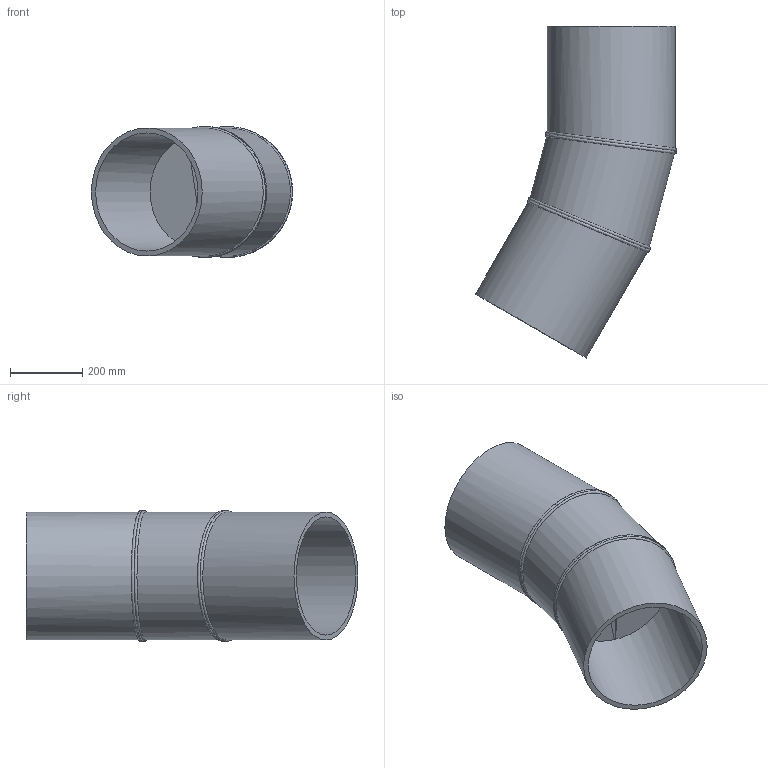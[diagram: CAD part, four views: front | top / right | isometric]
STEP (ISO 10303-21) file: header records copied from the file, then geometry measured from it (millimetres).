
FILE_DESCRIPTION(/* description */ ('Unknown'),/* implementation_level */ '2;1');
FILE_NAME(/* name */ 'Curva 30° a settore DE355 SDR26',/* time_stamp */ '2022-07-26T09:13:11+02:00',/* author */ ('Unknown'),/* organization */ ('Unknown'),/* preprocessor_version */ 'ST-DEVELOPER v18.102',/* originating_system */ 'Solid Edge',/* authorisation */ 'Unknown');
FILE_SCHEMA (('AUTOMOTIVE_DESIGN {1 0 10303 214 3 1 1}'));
Length unit declared in the file: millimetre
Products named in the file (3): Curva 30° a settore DE355 SDR26; Tubo x Gomito 30° DE355 SDR26 - 1; Tubo x Gomito 30° DE355 SDR26 - 2
Assembly tree (3 placements, depth 2):
  Curva 30° a settore DE355 SDR26
    Tubo x Gomito 30° DE355 SDR26 - 1  x2
    Tubo x Gomito 30° DE355 SDR26 - 2
Bounding box: 558.17 x 920.83 x 362.99 mm (x, y, z)
Volume: 13000824.8 mm3; surface area: 2004405.6 mm2
Topology: 3 solids, 3 shells, 24 faces, 51 edges, 33 vertices
Faces by surface type: cylinder 14, plane 6, bspline 4
Full cylindrical faces by diameter (mm): 327.8 x3, 355 x3
Entity records: 2341 total; most frequent: CARTESIAN_POINT 1946, DIRECTION 70, ORIENTED_EDGE 52, AXIS2_PLACEMENT_3D 35, EDGE_LOOP 28, FACE_BOUND 28, EDGE_CURVE 26, VERTEX_POINT 20
